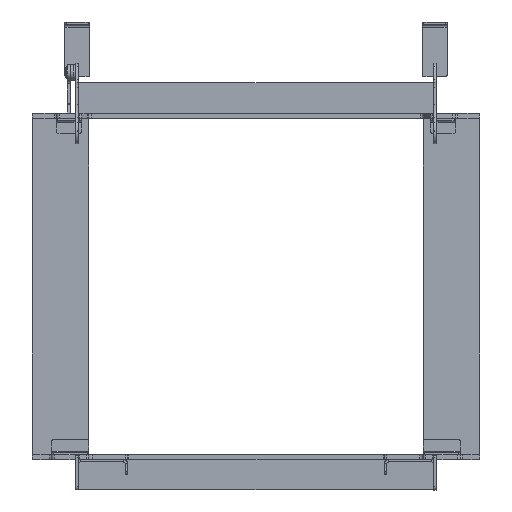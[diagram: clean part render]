
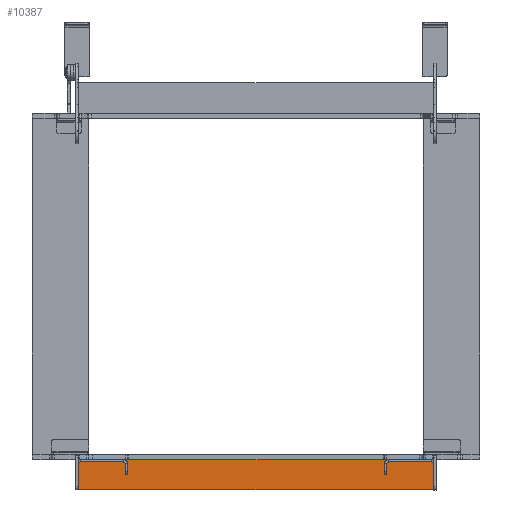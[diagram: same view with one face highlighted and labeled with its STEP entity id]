
A CAD part, front view. The second image highlights one B-rep face of the part: STEP entity #10387.
In plain terms, the highlighted planar face has unit normal (0, -1, 0).
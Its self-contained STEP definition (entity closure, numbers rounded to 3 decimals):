
#158=PLANE('',#11113);
#751=FACE_OUTER_BOUND('',#1303,.T.);
#1303=EDGE_LOOP('',(#7569,#7570,#7571,#7572,#7573,#7574,#7575,#7576,#7577,
#7578,#7579,#7580,#7581,#7582));
#1976=LINE('',#15937,#2988);
#1998=LINE('',#15996,#3010);
#2013=LINE('',#16035,#3025);
#2014=LINE('',#16037,#3026);
#2015=LINE('',#16039,#3027);
#2016=LINE('',#16043,#3028);
#2017=LINE('',#16045,#3029);
#2018=LINE('',#16049,#3030);
#2019=LINE('',#16052,#3031);
#2020=LINE('',#16053,#3032);
#2988=VECTOR('',#12621,10.);
#3010=VECTOR('',#12681,10.);
#3025=VECTOR('',#12730,10.);
#3026=VECTOR('',#12731,10.);
#3027=VECTOR('',#12732,10.);
#3028=VECTOR('',#12735,10.);
#3029=VECTOR('',#12736,10.);
#3030=VECTOR('',#12739,10.);
#3031=VECTOR('',#12742,10.);
#3032=VECTOR('',#12743,10.);
#3895=CIRCLE('',#11063,3.);
#3910=CIRCLE('',#11114,3.);
#3911=CIRCLE('',#11115,2.);
#3912=CIRCLE('',#11116,2.);
#4462=VERTEX_POINT('',#15485);
#4528=VERTEX_POINT('',#15870);
#4537=VERTEX_POINT('',#15892);
#4541=VERTEX_POINT('',#15931);
#4543=VERTEX_POINT('',#15935);
#4568=VERTEX_POINT('',#16034);
#4569=VERTEX_POINT('',#16036);
#4570=VERTEX_POINT('',#16038);
#4571=VERTEX_POINT('',#16040);
#4572=VERTEX_POINT('',#16042);
#4573=VERTEX_POINT('',#16044);
#4574=VERTEX_POINT('',#16046);
#4575=VERTEX_POINT('',#16048);
#4576=VERTEX_POINT('',#16050);
#5623=EDGE_CURVE('',#4462,#4537,#3895,.T.);
#5642=EDGE_CURVE('',#4541,#4543,#1976,.T.);
#5672=EDGE_CURVE('',#4537,#4541,#1998,.T.);
#5691=EDGE_CURVE('',#4568,#4543,#2013,.T.);
#5692=EDGE_CURVE('',#4568,#4569,#2014,.T.);
#5693=EDGE_CURVE('',#4569,#4570,#2015,.T.);
#5694=EDGE_CURVE('',#4570,#4571,#3910,.T.);
#5695=EDGE_CURVE('',#4572,#4571,#2016,.T.);
#5696=EDGE_CURVE('',#4573,#4572,#2017,.T.);
#5697=EDGE_CURVE('',#4574,#4573,#3911,.T.);
#5698=EDGE_CURVE('',#4575,#4574,#2018,.T.);
#5699=EDGE_CURVE('',#4576,#4575,#3912,.T.);
#5700=EDGE_CURVE('',#4528,#4576,#2019,.T.);
#5701=EDGE_CURVE('',#4462,#4528,#2020,.T.);
#7569=ORIENTED_EDGE('',*,*,#5623,.T.);
#7570=ORIENTED_EDGE('',*,*,#5672,.T.);
#7571=ORIENTED_EDGE('',*,*,#5642,.T.);
#7572=ORIENTED_EDGE('',*,*,#5691,.F.);
#7573=ORIENTED_EDGE('',*,*,#5692,.T.);
#7574=ORIENTED_EDGE('',*,*,#5693,.T.);
#7575=ORIENTED_EDGE('',*,*,#5694,.T.);
#7576=ORIENTED_EDGE('',*,*,#5695,.F.);
#7577=ORIENTED_EDGE('',*,*,#5696,.F.);
#7578=ORIENTED_EDGE('',*,*,#5697,.F.);
#7579=ORIENTED_EDGE('',*,*,#5698,.F.);
#7580=ORIENTED_EDGE('',*,*,#5699,.F.);
#7581=ORIENTED_EDGE('',*,*,#5700,.F.);
#7582=ORIENTED_EDGE('',*,*,#5701,.F.);
#10387=ADVANCED_FACE('',(#751),#158,.T.);
#11063=AXIS2_PLACEMENT_3D('',#15894,#12577,#12578);
#11113=AXIS2_PLACEMENT_3D('',#16033,#12728,#12729);
#11114=AXIS2_PLACEMENT_3D('',#16041,#12733,#12734);
#11115=AXIS2_PLACEMENT_3D('',#16047,#12737,#12738);
#11116=AXIS2_PLACEMENT_3D('',#16051,#12740,#12741);
#12577=DIRECTION('center_axis',(0.,-1.,0.));
#12578=DIRECTION('ref_axis',(0.,0.,
1.));
#12621=DIRECTION('',(0.,0.,1.));
#12681=DIRECTION('',(-1.,0.,0.));
#12728=DIRECTION('center_axis',(0.,-1.,0.));
#12729=DIRECTION('ref_axis',(1.,0.,0.));
#12730=DIRECTION('',(1.,0.,0.));
#12731=DIRECTION('',(0.,0.,-1.));
#12732=DIRECTION('',(-1.,0.,0.));
#12733=DIRECTION('center_axis',(0.,-1.,0.));
#12734=DIRECTION('ref_axis',(0.,0.,
1.));
#12735=DIRECTION('',(0.,0.,1.));
#12736=DIRECTION('',(0.,0.,1.));
#12737=DIRECTION('center_axis',(0.,1.,0.));
#12738=DIRECTION('ref_axis',(-0.707,0.,-0.707));
#12739=DIRECTION('',(-1.,0.,0.));
#12740=DIRECTION('center_axis',(0.,1.,0.));
#12741=DIRECTION('ref_axis',(0.707,0.,-0.707));
#12742=DIRECTION('',(0.,0.,-1.));
#12743=DIRECTION('',(0.,0.,-1.));
#15485=CARTESIAN_POINT('',(291.5,-101.5,-567.));
#15870=CARTESIAN_POINT('',(291.5,-101.5,-607.));
#15892=CARTESIAN_POINT('',(288.5,-101.5,-564.));
#15894=CARTESIAN_POINT('Origin',(288.5,-101.5,-567.));
#15931=CARTESIAN_POINT('',(286.125,-101.5,-564.));
#15935=CARTESIAN_POINT('',(286.125,-101.5,-560.));
#15937=CARTESIAN_POINT('',(286.125,-101.5,-560.));
#15996=CARTESIAN_POINT('',(132.75,-101.5,-564.));
#16033=CARTESIAN_POINT('Origin',(0.,-101.5,
-585.));
#16034=CARTESIAN_POINT('',(-286.125,-101.5,-560.));
#16035=CARTESIAN_POINT('',(0.,-101.5,-560.));
#16036=CARTESIAN_POINT('',(-286.125,-101.5,-564.));
#16037=CARTESIAN_POINT('',(-286.125,-101.5,-560.));
#16038=CARTESIAN_POINT('',(-288.5,-101.5,-564.));
#16039=CARTESIAN_POINT('',(-132.75,-101.5,-564.));
#16040=CARTESIAN_POINT('',(-291.5,-101.5,-567.));
#16041=CARTESIAN_POINT('Origin',(-288.5,-101.5,-567.));
#16042=CARTESIAN_POINT('',(-291.5,-101.5,-607.));
#16043=CARTESIAN_POINT('',(-291.5,-101.5,-560.));
#16044=CARTESIAN_POINT('',(-291.5,-101.5,-608.));
#16045=CARTESIAN_POINT('',(-291.5,-101.5,-560.));
#16046=CARTESIAN_POINT('',(-289.5,-101.5,-610.));
#16047=CARTESIAN_POINT('Origin',(-289.5,-101.5,-608.));
#16048=CARTESIAN_POINT('',(289.5,-101.5,-610.));
#16049=CARTESIAN_POINT('',(-291.5,-101.5,-610.));
#16050=CARTESIAN_POINT('',(291.5,-101.5,-608.));
#16051=CARTESIAN_POINT('Origin',(289.5,-101.5,-608.));
#16052=CARTESIAN_POINT('',(291.5,-101.5,-610.));
#16053=CARTESIAN_POINT('',(291.5,-101.5,-610.));
